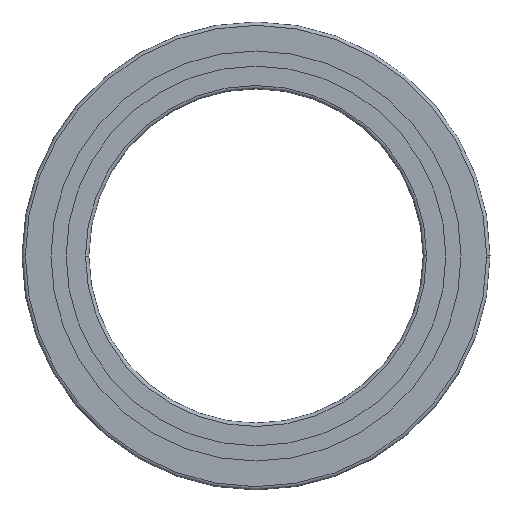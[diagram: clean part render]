
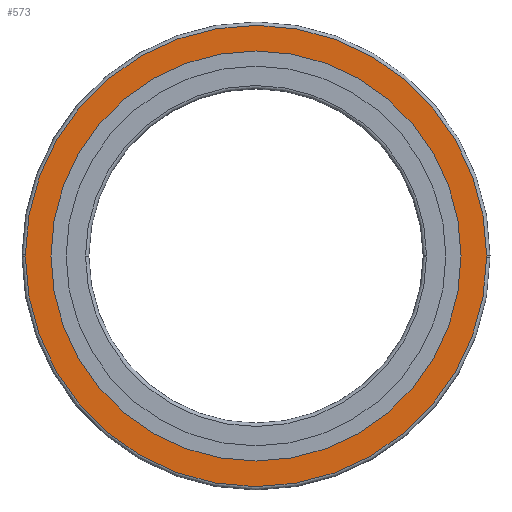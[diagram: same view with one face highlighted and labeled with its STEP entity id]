
A CAD part, front view. The second image highlights one B-rep face of the part: STEP entity #573.
In plain terms, the highlighted planar face has unit normal (0, -1, 0).
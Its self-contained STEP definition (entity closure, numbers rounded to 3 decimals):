
#325=VERTEX_POINT('',#863);
#389=EDGE_CURVE('',#401,#751,#932,.T.);
#401=VERTEX_POINT('',#944);
#427=EDGE_CURVE('',#751,#747,#974,.T.);
#491=EDGE_CURVE('',#747,#515,#1047,.T.);
#515=VERTEX_POINT('',#1075);
#573=ADVANCED_FACE('',(#1143,#1144),#1145,.F.);
#623=EDGE_CURVE('',#325,#655,#1201,.T.);
#655=VERTEX_POINT('',#1234);
#659=EDGE_CURVE('',#655,#325,#1239,.T.);
#727=EDGE_CURVE('',#515,#401,#1313,.T.);
#747=VERTEX_POINT('',#1335);
#751=VERTEX_POINT('',#1339);
#863=CARTESIAN_POINT('',(92.0,0.0,0.));
#932=CIRCLE('',#1556,103.5);
#944=CARTESIAN_POINT('',(103.5,0.0,0.0));
#974=CIRCLE('',#1607,103.5);
#1047=CIRCLE('',#1697,103.5);
#1075=CARTESIAN_POINT('',(103.498,0.0,-0.642));
#1143=FACE_OUTER_BOUND('',#1810,.T.);
#1144=FACE_BOUND('',#1811,.T.);
#1145=PLANE('',#1812);
#1201=CIRCLE('',#1881,92.0);
#1234=CARTESIAN_POINT('',(-92.0,0.0,0.0));
#1239=CIRCLE('',#1928,92.0);
#1313=CIRCLE('',#2028,103.5);
#1335=CARTESIAN_POINT('',(-103.5,0.0,0.));
#1339=CARTESIAN_POINT('',(-103.498,0.0,0.642));
#1556=AXIS2_PLACEMENT_3D('',#2260,#2261,#2262);
#1607=AXIS2_PLACEMENT_3D('',#2316,#2317,#2318);
#1697=AXIS2_PLACEMENT_3D('',#2418,#2419,#2420);
#1810=EDGE_LOOP('',(#2560,#2561,#2562,#2563));
#1811=EDGE_LOOP('',(#2564,#2565));
#1812=AXIS2_PLACEMENT_3D('',#2566,#2567,#2568);
#1881=AXIS2_PLACEMENT_3D('',#2642,#2643,#2644);
#1928=AXIS2_PLACEMENT_3D('',#2685,#2686,#2687);
#2028=AXIS2_PLACEMENT_3D('',#2800,#2801,#2802);
#2260=CARTESIAN_POINT('',(0.0,0.0,0.0));
#2261=DIRECTION('',(0.0,-1.0,0.0));
#2262=DIRECTION('',(1.0,0.0,0.0));
#2316=CARTESIAN_POINT('',(0.0,0.0,0.0));
#2317=DIRECTION('',(0.0,-1.0,0.0));
#2318=DIRECTION('',(1.0,0.0,0.0));
#2418=CARTESIAN_POINT('',(0.0,0.0,0.0));
#2419=DIRECTION('',(0.0,-1.0,0.0));
#2420=DIRECTION('',(-1.0,0.0,0.0));
#2560=ORIENTED_EDGE('',*,*,#491,.T.);
#2561=ORIENTED_EDGE('',*,*,#727,.T.);
#2562=ORIENTED_EDGE('',*,*,#389,.T.);
#2563=ORIENTED_EDGE('',*,*,#427,.T.);
#2564=ORIENTED_EDGE('',*,*,#659,.F.);
#2565=ORIENTED_EDGE('',*,*,#623,.F.);
#2566=CARTESIAN_POINT('',(0.0,0.0,0.0));
#2567=DIRECTION('',(0.0,1.0,0.0));
#2568=DIRECTION('',(1.0,0.0,-0.0));
#2642=CARTESIAN_POINT('',(0.0,0.0,0.0));
#2643=DIRECTION('',(0.0,-1.0,0.0));
#2644=DIRECTION('',(1.0,0.0,0.0));
#2685=CARTESIAN_POINT('',(0.0,0.0,0.0));
#2686=DIRECTION('',(0.0,-1.0,0.0));
#2687=DIRECTION('',(-1.0,0.0,0.0));
#2800=CARTESIAN_POINT('',(0.0,0.0,0.0));
#2801=DIRECTION('',(0.0,-1.0,0.0));
#2802=DIRECTION('',(-1.0,0.0,0.0));
